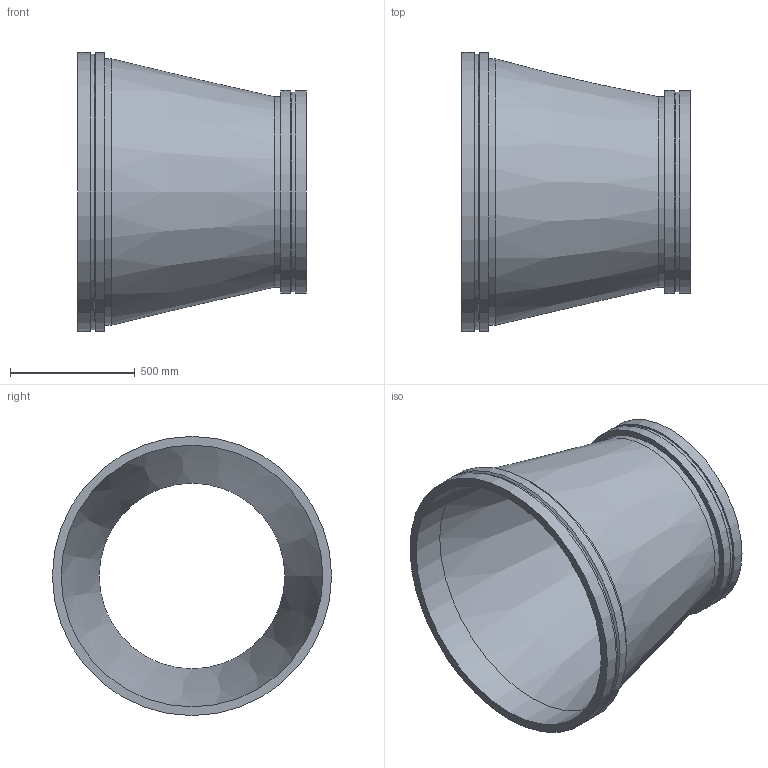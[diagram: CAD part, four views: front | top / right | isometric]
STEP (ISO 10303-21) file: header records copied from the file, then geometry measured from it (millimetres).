
FILE_DESCRIPTION(/* description */ ('VIC REDUCER CONCENTRIC No W50 VR','CAx-IF Rec.Pracs.---Representation and Presentation of Product Manufacturing Information (PMI)---4.0---2014-10-13'),/* implementation_level */ '2;1');
FILE_NAME(/* name */ 'C:\Users\kkamble\AppData\Roaming\Autodesk\ApplicationPlugins\Back Up\Victaulic_Vic-Ring_Reducer Concentric_No W50 VR (AGR)\Victaulic_Vic-Ring_Reducer Concentric_No W50 VR (AGR)_42.0x30.0 (1050x750).stp',/* time_stamp */ '2020-09-10T11:47:30+05:00',/* author */ ('cps_temp'),/* organization */ ('Victaulic'),/* preprocessor_version */ 'ST-DEVELOPER v17.2',/* originating_system */ 'Autodesk Inventor 2019',/* authorisation */ '');
FILE_SCHEMA (('AP242_MANAGED_MODEL_BASED_3D_ENGINEERING_MIM_LF { 1 0 10303 442 1 1 4 }'));
Length unit declared in the file: inch
Products named in the file (1): W50 VR-42.0x30.0
Bounding box: 914.4 x 1117.6 x 1117.6 mm (x, y, z)
Volume: 39788151.7 mm3; surface area: 5757883.6 mm2
Topology: 1 solids, 1 shells, 20 faces, 54 edges, 40 vertices
Faces by surface type: cylinder 10, plane 6, cone 4
Full cylindrical faces by diameter (mm): 742.95 x1, 762 x1, 798.322 x1, 812.8 x2, 1047.75 x1, 1066.8 x1, 1101.725 x1, 1117.6 x2
Entity records: 830 total; most frequent: DIRECTION 162, CARTESIAN_POINT 132, ORIENTED_EDGE 108, AXIS2_PLACEMENT_3D 74, EDGE_CURVE 54, CIRCLE 40, VERTEX_POINT 40, EDGE_LOOP 26
